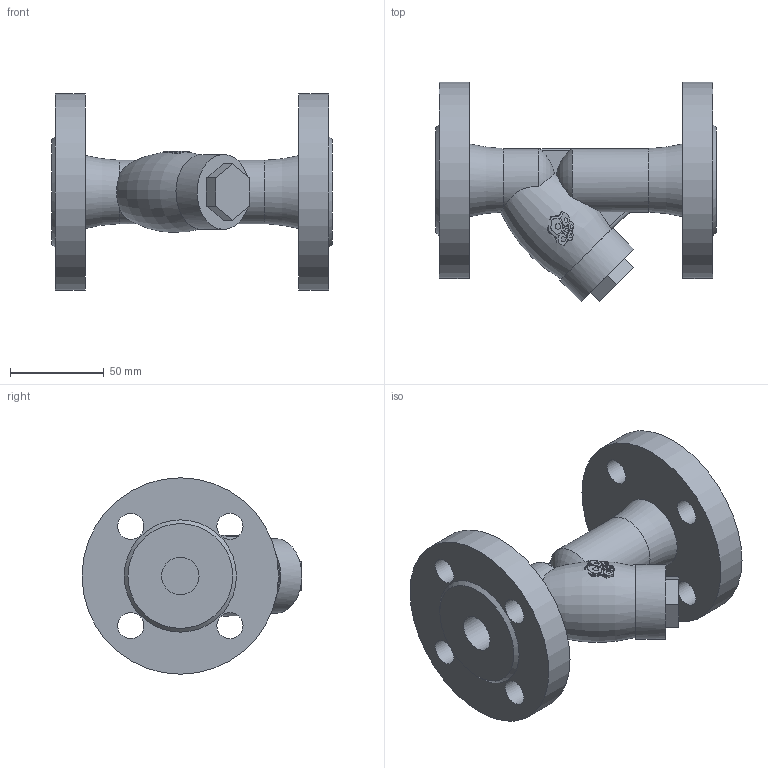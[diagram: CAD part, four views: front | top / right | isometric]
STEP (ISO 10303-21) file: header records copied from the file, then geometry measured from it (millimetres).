
FILE_DESCRIPTION(('STEP AP203'), '1');
FILE_NAME('3D_600_601-020-16_1_1', '', ('UNSPECIFIED'), ('UNSPECIFIED'), 'C3D Converter', 'C3D Toolkit', '');
FILE_SCHEMA(('CONFIG_CONTROL_DESIGN'));
Length unit declared in the file: millimetre
Bounding box: 150 x 117.5 x 105 mm (x, y, z)
Volume: 432865.8 mm3; surface area: 68788.4 mm2
Topology: 1 solids, 1 shells, 876 faces, 2575 edges, 1723 vertices
Faces by surface type: plane 844, cylinder 19, torus 11, cone 2
Full cylindrical faces by diameter (mm): 14 x8, 20 x2, 34 x1, 40 x1, 105 x2
Entity records: 38744 total; most frequent: CARTESIAN_POINT 10017, ORIENTED_EDGE 5112, DIRECTION 3526, EDGE_CURVE 2556, VERTEX_POINT 1723, LINE 1654, VECTOR 1654, AXIS2_PLACEMENT_3D 936
